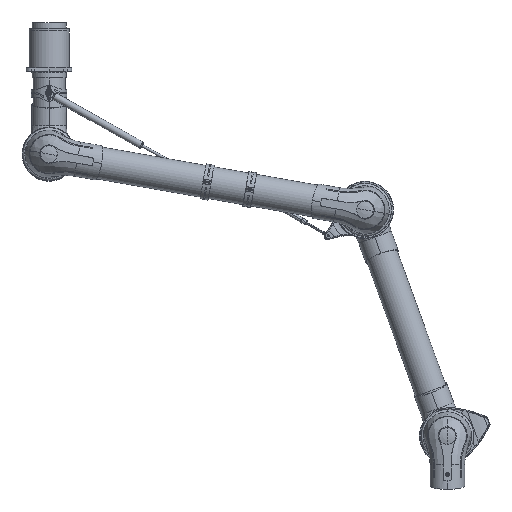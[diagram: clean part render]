
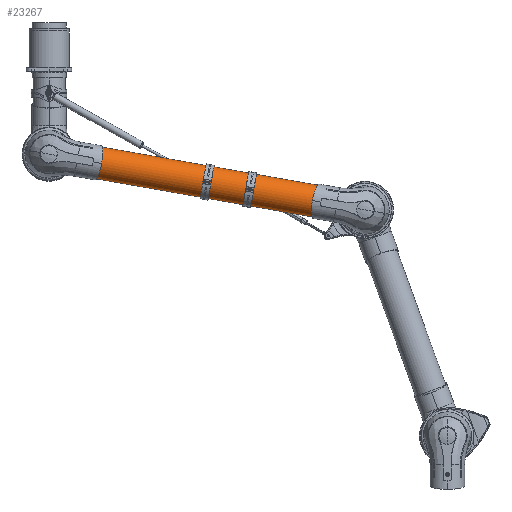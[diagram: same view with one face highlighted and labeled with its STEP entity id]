
A CAD part, top view. The second image highlights one B-rep face of the part: STEP entity #23267.
In plain terms, the highlighted cylindrical face has radius 50 mm (diameter 100 mm), a partial arc.
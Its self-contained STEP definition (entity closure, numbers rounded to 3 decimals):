
#23180=CARTESIAN_POINT('',(0.,0.,0.));
#23181=DIRECTION('',(1.,0.,0.));
#23182=DIRECTION('',(0.,1.,0.));
#23183=AXIS2_PLACEMENT_3D('',#23180,#23181,#23182);
#23188=DIRECTION('',(-1.,0.,0.));
#23189=VECTOR('',#23188,820.);
#23190=CARTESIAN_POINT('',(0.,50.,0.));
#23191=LINE('',#23190,#23189);
#23195=DIRECTION('',(-1.,0.,0.));
#23196=VECTOR('',#23195,820.);
#23197=CARTESIAN_POINT('',(0.,-50.,0.));
#23198=LINE('',#23197,#23196);
#23218=CARTESIAN_POINT('',(-820.,0.,0.));
#23219=DIRECTION('',(1.,0.,0.));
#23220=DIRECTION('',(0.,1.,0.));
#23221=AXIS2_PLACEMENT_3D('',#23218,#23219,#23220);
#23226=CARTESIAN_POINT('',(0.,50.,0.));
#23227=CARTESIAN_POINT('',(-820.,50.,0.));
#23228=VERTEX_POINT('',#23226);
#23229=VERTEX_POINT('',#23227);
#23230=CARTESIAN_POINT('',(0.,-50.,0.));
#23231=CARTESIAN_POINT('',(-820.,-50.,0.));
#23232=VERTEX_POINT('',#23230);
#23233=VERTEX_POINT('',#23231);
#23253=CARTESIAN_POINT('',(-861.,0.,0.));
#23254=DIRECTION('',(1.,0.,0.));
#23255=DIRECTION('',(0.,-1.,0.));
#23256=AXIS2_PLACEMENT_3D('',#23253,#23254,#23255);
#23257=CYLINDRICAL_SURFACE('',#23256,50.);
#23259=ORIENTED_EDGE('',*,*,#23258,.F.);
#23260=ORIENTED_EDGE('',*,*,#23239,.T.);
#23262=ORIENTED_EDGE('',*,*,#23261,.T.);
#23264=ORIENTED_EDGE('',*,*,#23263,.F.);
#23265=EDGE_LOOP('',(#23259,#23260,#23262,#23264));
#23266=FACE_OUTER_BOUND('',#23265,.F.);
#23184=CIRCLE('',#23183,50.);
#23222=CIRCLE('',#23221,50.);
#23239=EDGE_CURVE('',#23228,#23232,#23184,.T.);
#23258=EDGE_CURVE('',#23228,#23229,#23191,.T.);
#23261=EDGE_CURVE('',#23232,#23233,#23198,.T.);
#23263=EDGE_CURVE('',#23229,#23233,#23222,.T.);
#23267=ADVANCED_FACE('',(#23266),#23257,.T.);
